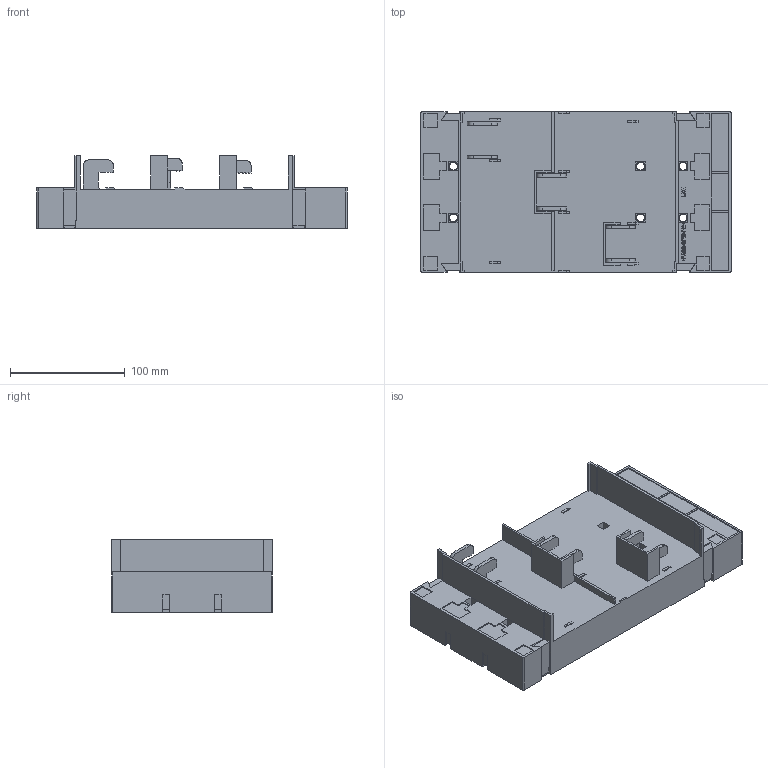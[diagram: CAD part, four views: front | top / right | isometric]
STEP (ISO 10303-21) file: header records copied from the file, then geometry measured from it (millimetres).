
FILE_DESCRIPTION (( 'STEP AP203' ), '1' );
FILE_NAME ('55157.STEP', '2021-08-27T01:31:09', ( '' ), ( '' ), 'SwSTEP 2.0', 'SolidWorks 2017', '' );
FILE_SCHEMA (( 'CONFIG_CONTROL_DESIGN' ));
Products named in the file (2): 55157
Bounding box: 270 x 140 x 63 mm (x, y, z)
Volume: 1262803.3 mm3; surface area: 165517.9 mm2
Topology: 1 solids, 1 shells, 1951 faces, 5451 edges, 3615 vertices
Faces by surface type: plane 1731, cylinder 208, cone 12
Full cylindrical faces by diameter (mm): 6.75 x6, 8.5 x3, 10 x3, 10.5 x6, 11 x4, 12 x8, 18 x6, 20 x6
Entity records: 61796 total; most frequent: CARTESIAN_POINT 11626, ORIENTED_EDGE 10686, DIRECTION 9570, EDGE_CURVE 5343, LINE 4802, VECTOR 4802, VERTEX_POINT 3573, AXIS2_PLACEMENT_3D 2384
